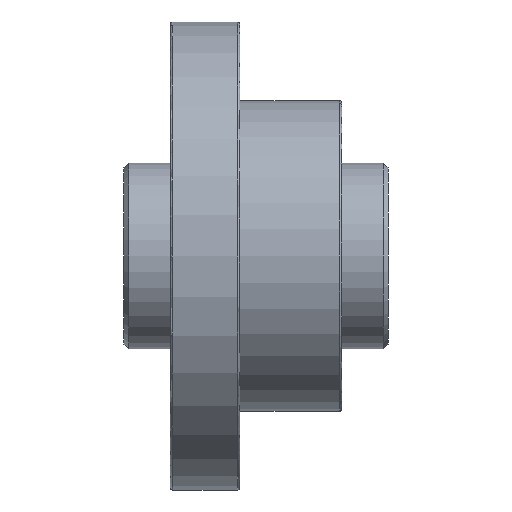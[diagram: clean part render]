
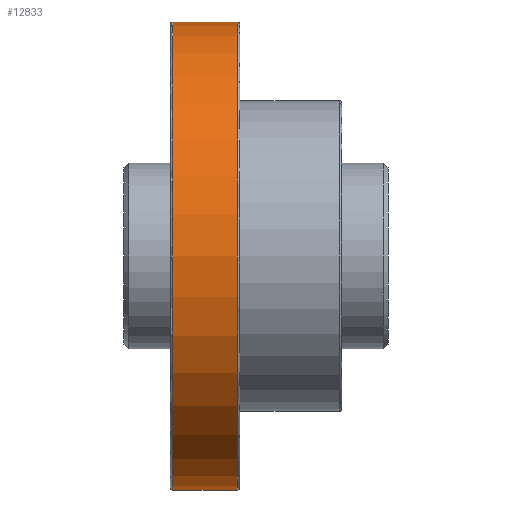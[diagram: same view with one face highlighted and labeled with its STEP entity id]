
A CAD part, front view. The second image highlights one B-rep face of the part: STEP entity #12833.
In plain terms, the highlighted cylindrical face has radius 50.5 mm (diameter 101 mm), a partial arc.
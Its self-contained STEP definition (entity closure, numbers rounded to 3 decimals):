
#360 = ORIENTED_EDGE ( 'NONE', *, *, #2495, .T. ) ;
#685 = LINE ( 'NONE', #12507, #9600 ) ;
#1057 = AXIS2_PLACEMENT_3D ( 'NONE', #7324, #2207, #2334 ) ;
#1320 = ORIENTED_EDGE ( 'NONE', *, *, #5467, .T. ) ;
#1689 = CIRCLE ( 'NONE', #1057, 50.5 ) ;
#2207 = DIRECTION ( 'NONE',  ( 1., 0., 0. ) ) ;
#2289 = CYLINDRICAL_SURFACE ( 'NONE', #7856, 50.5 ) ;
#2334 = DIRECTION ( 'NONE',  ( 0., 0., 1. ) ) ;
#2424 = VERTEX_POINT ( 'NONE', #4244 ) ;
#2495 = EDGE_CURVE ( 'NONE', #2424, #7011, #1689, .T. ) ;
#2512 = CARTESIAN_POINT ( 'NONE',  ( 15., 0., -50.5 ) ) ;
#2636 = LINE ( 'NONE', #2512, #9359 ) ;
#2994 = VERTEX_POINT ( 'NONE', #4122 ) ;
#3339 = EDGE_LOOP ( 'NONE', ( #10323, #7310, #1320, #360 ) ) ;
#3721 = AXIS2_PLACEMENT_3D ( 'NONE', #10163, #6129, #11160 ) ;
#4122 = CARTESIAN_POINT ( 'NONE',  ( 14.5, 0., -50.5 ) ) ;
#4244 = CARTESIAN_POINT ( 'NONE',  ( 0.5, 0., 50.5 ) ) ;
#4336 = CIRCLE ( 'NONE', #3721, 50.5 ) ;
#4620 = DIRECTION ( 'NONE',  ( -1., 0., 0. ) ) ;
#5467 = EDGE_CURVE ( 'NONE', #10663, #2424, #685, .T. ) ;
#5796 = DIRECTION ( 'NONE',  ( -1., 0., 0. ) ) ;
#6129 = DIRECTION ( 'NONE',  ( 1., 0., 0. ) ) ;
#6316 = CARTESIAN_POINT ( 'NONE',  ( 0.5, 0., -50.5 ) ) ;
#7011 = VERTEX_POINT ( 'NONE', #6316 ) ;
#7310 = ORIENTED_EDGE ( 'NONE', *, *, #11321, .F. ) ;
#7324 = CARTESIAN_POINT ( 'NONE',  ( 0.5, 0., 0. ) ) ;
#7856 = AXIS2_PLACEMENT_3D ( 'NONE', #12843, #5796, #10881 ) ;
#9359 = VECTOR ( 'NONE', #9408, 1000. ) ;
#9408 = DIRECTION ( 'NONE',  ( -1., 0., 0. ) ) ;
#9493 = CARTESIAN_POINT ( 'NONE',  ( 14.5, 0., 50.5 ) ) ;
#9600 = VECTOR ( 'NONE', #4620, 1000. ) ;
#10163 = CARTESIAN_POINT ( 'NONE',  ( 14.5, 0., 0. ) ) ;
#10323 = ORIENTED_EDGE ( 'NONE', *, *, #11064, .F. ) ;
#10663 = VERTEX_POINT ( 'NONE', #9493 ) ;
#10881 = DIRECTION ( 'NONE',  ( 0., 0., 1. ) ) ;
#11064 = EDGE_CURVE ( 'NONE', #2994, #7011, #2636, .T. ) ;
#11160 = DIRECTION ( 'NONE',  ( 0., 0., -1. ) ) ;
#11321 = EDGE_CURVE ( 'NONE', #10663, #2994, #4336, .T. ) ;
#12507 = CARTESIAN_POINT ( 'NONE',  ( 15., 0., 50.5 ) ) ;
#12833 = ADVANCED_FACE ( 'NONE', ( #12914 ), #2289, .T. ) ;
#12843 = CARTESIAN_POINT ( 'NONE',  ( 15., 0., 0. ) ) ;
#12914 = FACE_OUTER_BOUND ( 'NONE', #3339, .T. ) ;
